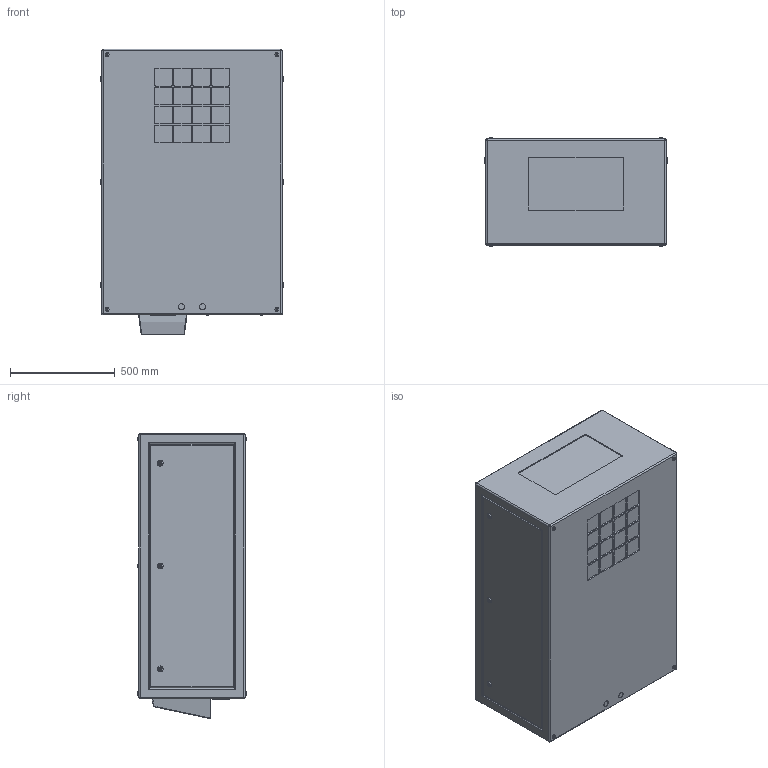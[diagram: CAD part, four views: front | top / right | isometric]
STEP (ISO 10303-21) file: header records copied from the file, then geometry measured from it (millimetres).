
FILE_DESCRIPTION (( 'STEP AP214' ), '1' );
FILE_NAME ('Cyclone 55.210.L R10.STEP', '2022-09-08T19:02:17', ( '' ), ( '' ), 'SwSTEP 2.0', 'SolidWorks 2020', '' );
FILE_SCHEMA (( 'AUTOMOTIVE_DESIGN' ));
Length unit declared in the file: inch
Products named in the file (1): Cyclone 55.210.L R10
Bounding box: 876.3 x 522.6 x 1365.25 mm (x, y, z)
Volume: 555790129.5 mm3; surface area: 4816757.3 mm2
Topology: 1 solids, 7 shells, 532 faces, 1256 edges, 804 vertices
Faces by surface type: plane 260, cylinder 220, torus 44, sphere 8
Entity records: 19325 total; most frequent: CARTESIAN_POINT 3129, DIRECTION 2694, ORIENTED_EDGE 2496, EDGE_CURVE 1248, AXIS2_PLACEMENT_3D 1009, VERTEX_POINT 804, VECTOR 676, LINE 676
